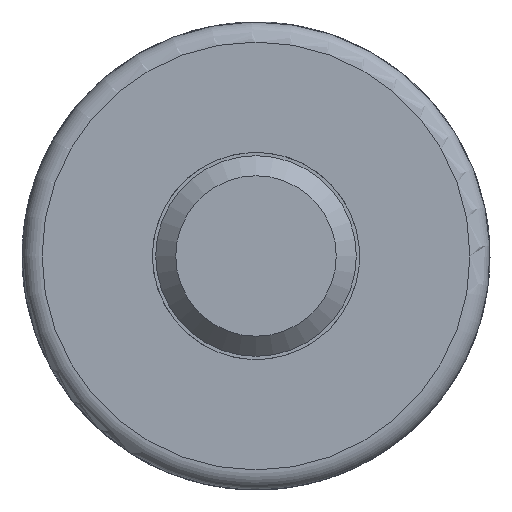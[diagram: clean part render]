
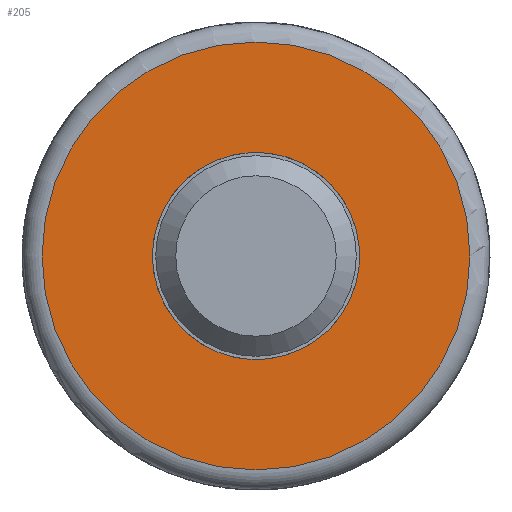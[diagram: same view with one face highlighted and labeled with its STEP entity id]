
A CAD part, front view. The second image highlights one B-rep face of the part: STEP entity #205.
In plain terms, the highlighted planar face has unit normal (0, -1, 0).
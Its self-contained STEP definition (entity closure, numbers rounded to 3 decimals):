
#124=FACE_BOUND('',#333,.T.);
#125=FACE_BOUND('',#334,.T.);
#164=CIRCLE('',#1062,1.55);
#171=CIRCLE('',#1072,3.2);
#205=ADVANCED_FACE('',(#124,#125),#251,.F.);
#251=PLANE('',#1073);
#333=EDGE_LOOP('',(#557));
#334=EDGE_LOOP('',(#558));
#557=ORIENTED_EDGE('',*,*,#883,.T.);
#558=ORIENTED_EDGE('',*,*,#876,.F.);
#764=VERTEX_POINT('',#2422);
#765=VERTEX_POINT('',#2433);
#876=EDGE_CURVE('',#764,#764,#164,.T.);
#883=EDGE_CURVE('',#765,#765,#171,.T.);
#1062=AXIS2_PLACEMENT_3D('',#2421,#1203,#1204);
#1072=AXIS2_PLACEMENT_3D('',#2432,#1223,#1224);
#1073=AXIS2_PLACEMENT_3D('',#2434,#1225,#1226);
#1203=DIRECTION('',(0.,-1.,0.));
#1204=DIRECTION('',(-1.,0.,0.));
#1223=DIRECTION('',(0.,-1.,0.));
#1224=DIRECTION('',(-1.,0.,0.));
#1225=DIRECTION('',(0.,1.,0.));
#1226=DIRECTION('',(-1.,0.,0.));
#2421=CARTESIAN_POINT('',(-23.01,-56.,0.));
#2422=CARTESIAN_POINT('',(-24.56,-56.,0.));
#2432=CARTESIAN_POINT('',(-23.01,-56.,0.));
#2433=CARTESIAN_POINT('',(-26.21,-56.,0.));
#2434=CARTESIAN_POINT('',(-20.02,-56.,0.));
